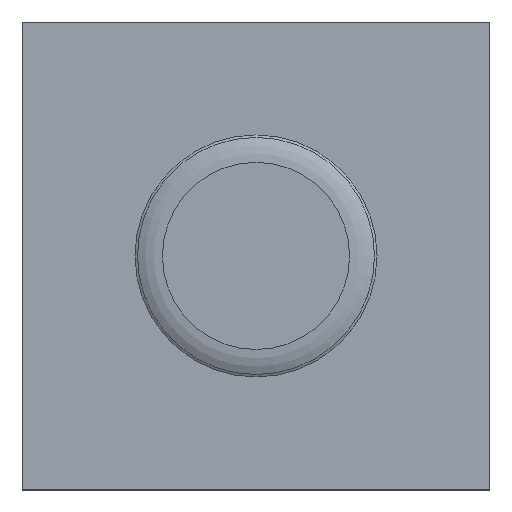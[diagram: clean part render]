
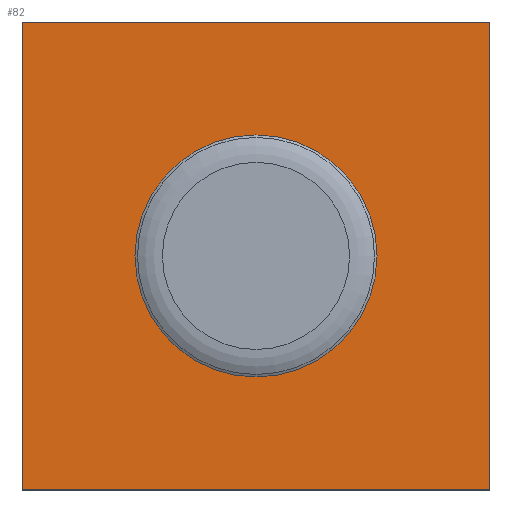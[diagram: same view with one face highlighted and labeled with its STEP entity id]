
A CAD part, top view. The second image highlights one B-rep face of the part: STEP entity #82.
In plain terms, the highlighted planar face has unit normal (0, 0, 1).
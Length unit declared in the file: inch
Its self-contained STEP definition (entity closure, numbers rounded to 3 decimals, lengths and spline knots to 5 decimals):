
#82=ADVANCED_FACE('',(#105,#106),#107,.F.);
#105=FACE_OUTER_BOUND('',#135,.T.);
#106=FACE_BOUND('',#136,.T.);
#107=PLANE('',#137);
#135=EDGE_LOOP('',(#194,#195,#196,#197));
#136=EDGE_LOOP('',(#198));
#137=AXIS2_PLACEMENT_3D('',#199,#200,#201);
#194=ORIENTED_EDGE('',*,*,#234,.T.);
#195=ORIENTED_EDGE('',*,*,#227,.T.);
#196=ORIENTED_EDGE('',*,*,#230,.T.);
#197=ORIENTED_EDGE('',*,*,#232,.T.);
#198=ORIENTED_EDGE('',*,*,#235,.F.);
#199=CARTESIAN_POINT('',(3.445,13.55,-12.597));
#200=DIRECTION('',(0.0,0.,-1.0));
#201=DIRECTION('',(0.0,-1.0,0.));
#227=EDGE_CURVE('',#252,#253,#254,.T.);
#230=EDGE_CURVE('',#253,#257,#258,.T.);
#232=EDGE_CURVE('',#257,#260,#261,.T.);
#234=EDGE_CURVE('',#260,#252,#263,.T.);
#235=EDGE_CURVE('',#264,#264,#265,.T.);
#252=VERTEX_POINT('',#288);
#253=VERTEX_POINT('',#289);
#254=LINE('',#290,#291);
#257=VERTEX_POINT('',#296);
#258=LINE('',#297,#298);
#260=VERTEX_POINT('',#301);
#261=LINE('',#302,#303);
#263=LINE('',#306,#307);
#264=VERTEX_POINT('',#308);
#265=CIRCLE('',#309,0.19395);
#288=CARTESIAN_POINT('',(0.77,0.875,-12.597));
#289=CARTESIAN_POINT('',(0.77,0.125,-12.597));
#290=CARTESIAN_POINT('',(0.77,2184.86805,-12.597));
#291=VECTOR('',#327,1.0);
#296=CARTESIAN_POINT('',(1.52,0.125,-12.597));
#297=CARTESIAN_POINT('',(3.445,0.125,-12.597));
#298=VECTOR('',#330,1.0);
#301=CARTESIAN_POINT('',(1.52,0.875,-12.597));
#302=CARTESIAN_POINT('',(1.52,6048.23488,-12.597));
#303=VECTOR('',#332,1.0);
#306=CARTESIAN_POINT('',(3.445,0.875,-12.597));
#307=VECTOR('',#334,1.0);
#308=CARTESIAN_POINT('',(0.95105,0.5,-12.597));
#309=AXIS2_PLACEMENT_3D('',#335,#336,#337);
#327=DIRECTION('',(0.0,-1.0,0.));
#330=DIRECTION('',(1.0,0.0,0.0));
#332=DIRECTION('',(0.0,1.0,0.));
#334=DIRECTION('',(-1.0,0.0,0.0));
#335=CARTESIAN_POINT('',(1.145,0.5,-12.597));
#336=DIRECTION('',(0.0,0.,1.0));
#337=DIRECTION('',(-1.0,0.0,0.0));
